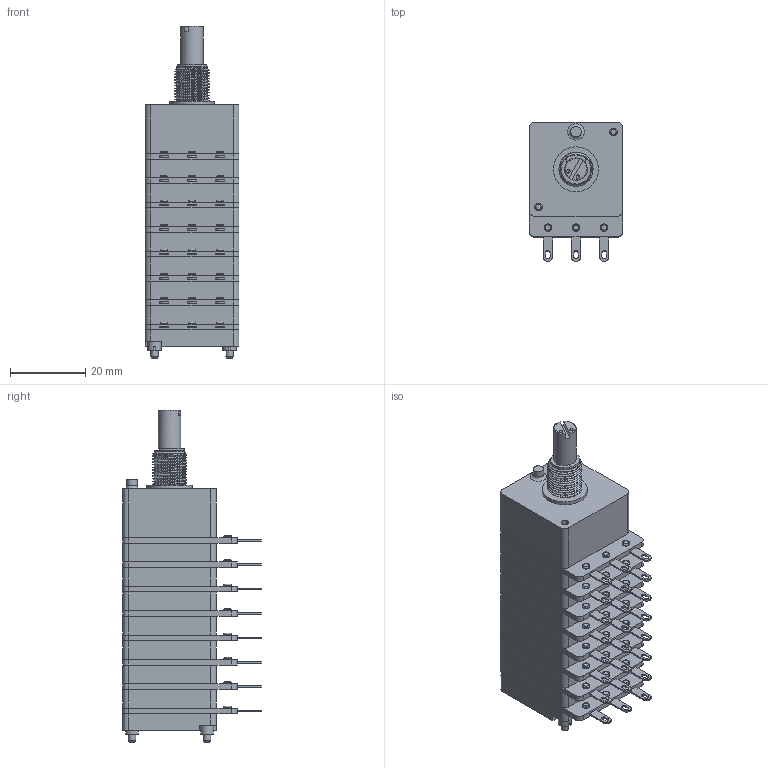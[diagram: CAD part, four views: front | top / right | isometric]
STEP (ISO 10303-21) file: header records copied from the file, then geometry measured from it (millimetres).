
FILE_DESCRIPTION(('FreeCAD Model'),'2;1');
FILE_NAME('Open CASCADE Shape Model','2024-02-27T09:47:24',(''),(''), 'Open CASCADE STEP processor 7.6','FreeCAD','Unknown');
FILE_SCHEMA(('AUTOMOTIVE_DESIGN { 1 0 10303 214 1 1 1 1 }'));
Products named in the file (1): 8cp25xx-sm20
Bounding box: 25 x 37 x 88.5 mm (x, y, z)
Volume: 42467 mm3; surface area: 13634.3 mm2
Topology: 1 solids, 41 shells, 771 faces, 1677 edges, 1056 vertices
Faces by surface type: plane 402, cylinder 295, bspline 38, torus 28, cone 6, sphere 2
Full cylindrical faces by diameter (mm): 1.9 x2, 2 x60, 2.2 x30, 2.8 x1, 3.5 x2, 4.5 x8, 5.4 x1, 6 x1, 6.05 x1, 8 x1, 9.09 x11, 12 x1
Entity records: 53901 total; most frequent: CARTESIAN_POINT 18175, DIRECTION 6054, ORIENTED_EDGE 3348, PCURVE 3348, DEFINITIONAL_REPRESENTATION 3348, LINE 3026, VECTOR 3026, EDGE_CURVE 1674
